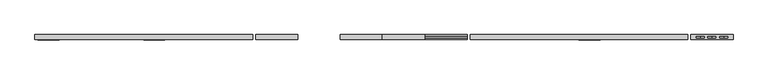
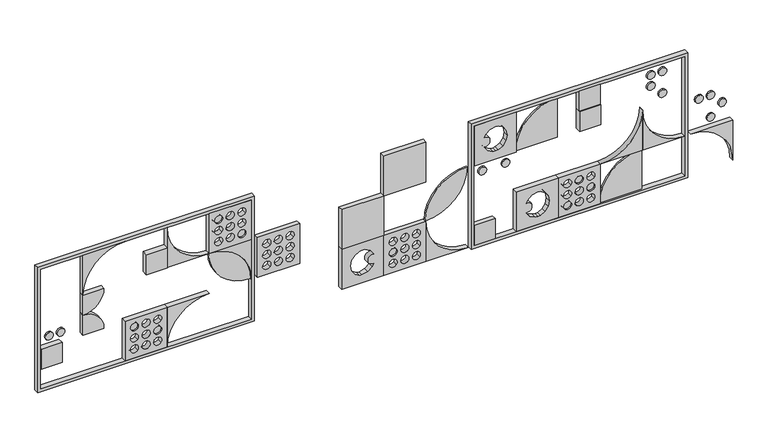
"""IFC4 building model written with IfcOpenShell, lengths in millimetres: proxy geometry, Modelos genéricos - (reduzido)PAINEL VAZADO - 90CM - (reduzido)PAINEL VAZADO - 90CM."""

from ifc_helpers import new_model, si_unit, point, frame, frame_2d, origin, place, context, project, spatial, polyline, circle_curve, trimmed, segment, composite_curve, outline, extrude, source, transform, mapped, element, save
from ifc_brep_helpers import plane_surface, revolved_surface, advanced_brep


def generic_models_19a9d5c8(model_context):
    return source(origin(), model_context, "Body", "SolidModel", [
        extrude(outline(composite_curve([segment(polyline([(30.0, 6030.0), (450.0, 6030.0)]), True, "CONTINUOUS"), segment(trimmed(circle_curve(frame_2d((30.0, 6030.0)), 420.0), [point((450.0, 6030.0))], [point((30.0, 5610.0))], False, "CARTESIAN"), True, "CONTINUOUS"), segment(polyline([(30.0, 5610.0), (30.0, 6030.0)]), True, "CONTINUOUS")], self_intersect=False)), frame((0.0, -35.0, 0.0), z_axis=(0.0, 1.0, 0.0), x_axis=(0.0, 0.0, 1.0)), (0.0, 0.0, 1.0), 15.0),
        extrude(outline(composite_curve([segment(trimmed(circle_curve(frame_2d((870.0, 3870.0)), 420.0), [point((450.0, 3870.0))], [point((870.0, 4290.0))], False, "CARTESIAN"), True, "CONTINUOUS"), segment(trimmed(circle_curve(frame_2d((450.0, 4290.0)), 420.0), [point((870.0, 4290.0))], [point((450.0, 3870.0))], False, "CARTESIAN"), True, "CONTINUOUS")], self_intersect=False)), frame((0.0, -35.0, 0.0), z_axis=(0.0, 1.0, 0.0), x_axis=(0.0, 0.0, 1.0)), (0.0, 0.0, 1.0), 15.0),
        extrude(outline(composite_curve([segment(trimmed(circle_curve(frame_2d((1195.9383616, 1804.0616384)), 40.0), [point((1235.9383616, 1804.0616384))], [point((1155.9383616, 1804.0616384))], False, "CARTESIAN"), True, "CONTINUOUS"), segment(trimmed(circle_curve(frame_2d((1195.9383616, 1804.0616384)), 40.0), [point((1155.9383616, 1804.0616384))], [point((1235.9383616, 1804.0616384))], False, "CARTESIAN"), True, "CONTINUOUS")], self_intersect=False)), frame((0.0, -35.0, 0.0), z_axis=(0.0, 1.0, 0.0), x_axis=(0.0, 0.0, 1.0)), (0.0, 0.0, 1.0), 15.0),
        advanced_brep(
        [(870.0, -50.0, 1290.0), (450.0, -50.0, 870.0), (450.0, 0.0, 870.0), (870.0, 0.0, 1290.0), (450.0, -50.0, 1290.0), (450.0, 0.0, 1290.0)],
        [
            (0, 1, circle_curve(frame((870.0, -50.0, 870.0), z_axis=(0.0, -1.0, 0.0), x_axis=(0.0, 0.0, -1.0)), 420.0)),
            (1, 2),
            (2, 3, circle_curve(frame((870.0, 0.0, 870.0), z_axis=(0.0, 1.0, 0.0), x_axis=(0.0, 0.0, -1.0)), 420.0)),
            (3, 0),
            (4, 0),
            (3, 5),
            (5, 4),
            (1, 4),
            (5, 2),
        ],
        [
            revolved_surface(polyline([(870.0, 0.0, 450.0), (870.0, -50.0, 450.0)]), (870.0, -50.0, 870.0), (0.0, 1.0, 0.0)),
            plane_surface(frame((450.0, -50.0, 1290.0), z_axis=(0.0, 0.0, 1.0), x_axis=(1.0, 0.0, 0.0))),
            plane_surface(frame((450.0, -50.0, 870.0), z_axis=(-1.0, 0.0, 0.0), x_axis=(0.0, 0.0, 1.0))),
            plane_surface(frame((590.0, 0.0, 1150.0), z_axis=(0.0, 1.0, 0.0), x_axis=(0.0, 0.0, 1.0))),
            plane_surface(frame((590.0, -50.0, 1150.0), z_axis=(0.0, -1.0, 0.0), x_axis=(0.0, 0.0, 1.0))),
        ],
        [
            (0, [[1, 2, 3, 4]]),
            (1, [[5, -4, 6, 7]]),
            (2, [[8, -7, 9, -2]]),
            (3, [[-9, -6, -3]]),
            (4, [[-8, -1, -5]]),
        ],
    ),
        advanced_brep(
        [(6510.0, -50.0, 450.0), (6930.0, -50.0, 450.0), (6930.0, 0.0, 450.0), (6510.0, 0.0, 450.0), (6930.0, -50.0, 30.0), (6930.0, 0.0, 30.0)],
        [
            (0, 1),
            (1, 2),
            (2, 3),
            (3, 0),
            (4, 0, circle_curve(frame((6510.0, -50.0, 30.0), z_axis=(0.0, -1.0, 0.0), x_axis=(0.0, 0.0, -1.0)), 420.0)),
            (3, 5, circle_curve(frame((6510.0, 0.0, 30.0), z_axis=(0.0, 1.0, 0.0), x_axis=(0.0, 0.0, -1.0)), 420.0)),
            (5, 4),
            (1, 4),
            (5, 2),
        ],
        [
            plane_surface(frame((6510.0, -50.0, 450.0), z_axis=(0.0, 0.0, 1.0), x_axis=(1.0, 0.0, 0.0))),
            revolved_surface(polyline([(6510.0, 0.0, -390.0), (6510.0, -50.0, -390.0)]), (6510.0, -50.0, 30.0), (0.0, 1.0, 0.0)),
            plane_surface(frame((6930.0, -50.0, 450.0), z_axis=(1.0, 0.0, 0.0), x_axis=(0.0, 0.0, -1.0))),
            plane_surface(frame((6790.0, -50.0, 310.0), z_axis=(0.0, -1.0, 0.0), x_axis=(0.0, 0.0, -1.0))),
            plane_surface(frame((6790.0, 0.0, 310.0), z_axis=(0.0, 1.0, 0.0), x_axis=(0.0, 0.0, -1.0))),
        ],
        [
            (0, [[1, 2, 3, 4]]),
            (1, [[5, -4, 6, 7]]),
            (2, [[8, -7, 9, -2]]),
            (3, [[-8, -1, -5]]),
            (4, [[-9, -6, -3]]),
        ],
    ),
        extrude(outline(composite_curve([segment(trimmed(circle_curve(frame_2d((544.953472, 240.0)), 40.0), [point((584.953472, 240.0))], [point((504.953472, 240.0))], False, "CARTESIAN"), True, "CONTINUOUS"), segment(trimmed(circle_curve(frame_2d((544.953472, 240.0)), 40.0), [point((504.953472, 240.0))], [point((584.953472, 240.0))], False, "CARTESIAN"), True, "CONTINUOUS")], self_intersect=False)), frame((0.0, -35.0, 0.0), z_axis=(0.0, 1.0, 0.0), x_axis=(0.0, 0.0, 1.0)), (0.0, 0.0, 1.0), 15.0),
        extrude(outline(polyline([(870.0, 4770.0), (1290.0, 4770.0), (1290.0, 4350.0), (870.0, 4350.0), (870.0, 4770.0)]), holes=[composite_curve([segment(polyline([(1197.751931, 4510.1618033), (1211.3797598, 4567.3986814), (1208.1516151, 4592.1601848), (1183.2895761, 4636.7788723), (1138.4897299, 4667.655962), (1082.6252354, 4678.6758678), (1026.7607408, 4667.655962), (981.9608946, 4636.7788723), (957.0988556, 4592.1601848), (953.8707109, 4567.3986814), (957.3468229, 4537.8957399), (984.0396777, 4485.1759976), (1031.7379869, 4449.9753005)]), True, "CONTINUOUS"), segment(trimmed(circle_curve(frame_2d((1082.8329614, 4460.4172169)), 52.151031), [point((1031.7379869, 4449.9753005))], [point((1133.9674777, 4450.1706919))], False, "CARTESIAN"), True, "CONTINUOUS"), segment(polyline([(1133.9674777, 4450.1706919), (1159.7532787, 4465.0412277), (1197.751931, 4510.1618033)]), True, "CONTINUOUS")], self_intersect=False)]), frame((0.0, -50.0, 0.0), z_axis=(0.0, 1.0, 0.0), x_axis=(0.0, 0.0, 1.0)), (0.0, 0.0, 1.0), 50.0),
        extrude(outline(polyline([(3450.0, -50.0), (3450.0, 0.0), (3870.0, 0.0), (3870.0, -50.0), (3450.0, -50.0)])), frame((0.0, 0.0, 870.0), z_axis=(0.0, 0.0, 1.0), x_axis=(1.0, 0.0, 0.0)), (0.0, 0.0, 1.0), 420.0),
        extrude(outline(composite_curve([segment(polyline([(450.0, 6030.0), (870.0, 6030.0)]), True, "CONTINUOUS"), segment(trimmed(circle_curve(frame_2d((870.0, 5610.0)), 420.0), [point((870.0, 6030.0))], [point((450.0, 5610.0))], True, "CARTESIAN"), True, "CONTINUOUS"), segment(polyline([(450.0, 5610.0), (450.0, 6030.0)]), True, "CONTINUOUS")], self_intersect=False)), frame((0.0, -50.0, 0.0), z_axis=(0.0, 1.0, 0.0), x_axis=(0.0, 0.0, 1.0)), (0.0, 0.0, 1.0), 50.0),
        extrude(outline(composite_curve([segment(trimmed(circle_curve(frame_2d((660.0, 6835.9383616)), 40.0), [point((700.0, 6835.9383616))], [point((620.0, 6835.9383616))], False, "CARTESIAN"), True, "CONTINUOUS"), segment(trimmed(circle_curve(frame_2d((660.0, 6835.9383616)), 40.0), [point((620.0, 6835.9383616))], [point((700.0, 6835.9383616))], False, "CARTESIAN"), True, "CONTINUOUS")], self_intersect=False)), frame((0.0, -35.0, 0.0), z_axis=(0.0, 1.0, 0.0), x_axis=(0.0, 0.0, 1.0)), (0.0, 0.0, 1.0), 15.0),
        extrude(outline(composite_curve([segment(polyline([(870.0, 6030.0), (450.0, 6030.0), (450.0, 6450.0)]), True, "CONTINUOUS"), segment(trimmed(circle_curve(frame_2d((870.0, 6450.0)), 420.0), [point((450.0, 6450.0))], [point((870.0, 6030.0))], True, "CARTESIAN"), True, "CONTINUOUS")], self_intersect=False)), frame((0.0, -50.0, 0.0), z_axis=(0.0, 1.0, 0.0), x_axis=(0.0, 0.0, 1.0)), (0.0, 0.0, 1.0), 50.0),
        extrude(outline(polyline([(30.0, 5190.0), (450.0, 5190.0), (450.0, 4770.0), (30.0, 4770.0), (30.0, 5190.0)]), holes=[composite_curve([segment(polyline([(357.751931, 4930.1618033), (371.3797598, 4987.3986814), (368.1516151, 5012.1601848), (343.2895761, 5056.7788723), (298.4897299, 5087.655962), (242.6252354, 5098.6758678), (186.7607408, 5087.655962), (141.9608946, 5056.7788723), (117.0988556, 5012.1601848), (113.8707109, 4987.3986814), (117.3468229, 4957.8957399), (144.0396777, 4905.1759976), (191.7379869, 4869.9753005)]), True, "CONTINUOUS"), segment(trimmed(circle_curve(frame_2d((242.8329614, 4880.4172169)), 52.151031), [point((191.7379869, 4869.9753005))], [point((293.9674777, 4870.1706919))], False, "CARTESIAN"), True, "CONTINUOUS"), segment(polyline([(293.9674777, 4870.1706919), (319.7532787, 4885.0412277), (357.751931, 4930.1618033)]), True, "CONTINUOUS")], self_intersect=False)]), frame((0.0, -50.0, 0.0), z_axis=(0.0, 1.0, 0.0), x_axis=(0.0, 0.0, 1.0)), (0.0, 0.0, 1.0), 50.0),
        extrude(outline(composite_curve([segment(trimmed(circle_curve(frame_2d((355.9383616, 964.0616384)), 40.0), [point((395.9383616, 964.0616384))], [point((315.9383616, 964.0616384))], False, "CARTESIAN"), True, "CONTINUOUS"), segment(trimmed(circle_curve(frame_2d((355.9383616, 964.0616384)), 40.0), [point((315.9383616, 964.0616384))], [point((395.9383616, 964.0616384))], False, "CARTESIAN"), True, "CONTINUOUS")], self_intersect=False)), frame((0.0, -35.0, 0.0), z_axis=(0.0, 1.0, 0.0), x_axis=(0.0, 0.0, 1.0)), (0.0, 0.0, 1.0), 15.0),
        extrude(outline(composite_curve([segment(trimmed(circle_curve(frame_2d((964.953472, 6240.0)), 40.0), [point((1004.953472, 6240.0))], [point((924.953472, 6240.0))], False, "CARTESIAN"), True, "CONTINUOUS"), segment(trimmed(circle_curve(frame_2d((964.953472, 6240.0)), 40.0), [point((924.953472, 6240.0))], [point((1004.953472, 6240.0))], False, "CARTESIAN"), True, "CONTINUOUS")], self_intersect=False)), frame((0.0, -35.0, 0.0), z_axis=(0.0, 1.0, 0.0), x_axis=(0.0, 0.0, 1.0)), (0.0, 0.0, 1.0), 15.0),
        extrude(outline(polyline([(870.0, 2130.0), (1290.0, 2130.0), (1290.0, 1710.0), (870.0, 1710.0), (870.0, 2130.0)]), holes=[composite_curve([segment(trimmed(circle_curve(frame_2d((1080.0, 1804.0616384)), 40.0), [point((1103.5114101, 1771.7009587))], [point((1056.4885899, 1836.4223182))], True, "CARTESIAN"), True, "CONTINUOUS"), segment(trimmed(circle_curve(frame_2d((1080.0, 1804.0616384)), 40.0), [point((1056.4885899, 1836.4223182))], [point((1103.5114101, 1771.7009587))], True, "CARTESIAN"), True, "CONTINUOUS")], self_intersect=False), composite_curve([segment(trimmed(circle_curve(frame_2d((964.953472, 2035.9383616)), 40.0), [point((941.4420619, 2068.2990413))], [point((988.4648821, 2003.5776818))], True, "CARTESIAN"), True, "CONTINUOUS"), segment(trimmed(circle_curve(frame_2d((964.953472, 2035.9383616)), 40.0), [point((988.4648821, 2003.5776818))], [point((941.4420619, 2068.2990413))], True, "CARTESIAN"), True, "CONTINUOUS")], self_intersect=False), composite_curve([segment(trimmed(circle_curve(frame_2d((1195.9383616, 2035.9383616)), 40.0), [point((1172.4269515, 2068.2990413))], [point((1219.4497717, 2003.5776818))], True, "CARTESIAN"), True, "CONTINUOUS"), segment(trimmed(circle_curve(frame_2d((1195.9383616, 2035.9383616)), 40.0), [point((1219.4497717, 2003.5776818))], [point((1172.4269515, 2068.2990413))], True, "CARTESIAN"), True, "CONTINUOUS")], self_intersect=False), composite_curve([segment(trimmed(circle_curve(frame_2d((1080.0, 1920.0)), 40.0), [point((1047.6393202, 1896.4885899))], [point((1112.3606798, 1943.5114101))], True, "CARTESIAN"), True, "CONTINUOUS"), segment(trimmed(circle_curve(frame_2d((1080.0, 1920.0)), 40.0), [point((1112.3606798, 1943.5114101))], [point((1047.6393202, 1896.4885899))], True, "CARTESIAN"), True, "CONTINUOUS")], self_intersect=False), composite_curve([segment(trimmed(circle_curve(frame_2d((964.953472, 1920.0)), 40.0), [point((932.5927922, 1896.4885899))], [point((997.3141518, 1943.5114101))], True, "CARTESIAN"), True, "CONTINUOUS"), segment(trimmed(circle_curve(frame_2d((964.953472, 1920.0)), 40.0), [point((997.3141518, 1943.5114101))], [point((932.5927922, 1896.4885899))], True, "CARTESIAN"), True, "CONTINUOUS")], self_intersect=False), composite_curve([segment(trimmed(circle_curve(frame_2d((1195.9383616, 1920.0)), 40.0), [point((1163.5776818, 1896.4885899))], [point((1228.2990413, 1943.5114101))], True, "CARTESIAN"), True, "CONTINUOUS"), segment(trimmed(circle_curve(frame_2d((1195.9383616, 1920.0)), 40.0), [point((1228.2990413, 1943.5114101))], [point((1163.5776818, 1896.4885899))], True, "CARTESIAN"), True, "CONTINUOUS")], self_intersect=False), composite_curve([segment(trimmed(circle_curve(frame_2d((1080.0, 2035.9383616)), 40.0), [point((1056.4885899, 2068.2990413))], [point((1103.5114101, 2003.5776818))], True, "CARTESIAN"), True, "CONTINUOUS"), segment(trimmed(circle_curve(frame_2d((1080.0, 2035.9383616)), 40.0), [point((1103.5114101, 2003.5776818))], [point((1056.4885899, 2068.2990413))], True, "CARTESIAN"), True, "CONTINUOUS")], self_intersect=False), composite_curve([segment(trimmed(circle_curve(frame_2d((1195.9383616, 1804.0616384)), 40.0), [point((1219.4497717, 1771.7009587))], [point((1172.4269515, 1836.4223182))], True, "CARTESIAN"), True, "CONTINUOUS"), segment(trimmed(circle_curve(frame_2d((1195.9383616, 1804.0616384)), 40.0), [point((1172.4269515, 1836.4223182))], [point((1219.4497717, 1771.7009587))], True, "CARTESIAN"), True, "CONTINUOUS")], self_intersect=False), composite_curve([segment(trimmed(circle_curve(frame_2d((964.953472, 1804.0616384)), 40.0), [point((988.4648821, 1771.7009587))], [point((941.4420619, 1836.4223182))], True, "CARTESIAN"), True, "CONTINUOUS"), segment(trimmed(circle_curve(frame_2d((964.953472, 1804.0616384)), 40.0), [point((941.4420619, 1836.4223182))], [point((988.4648821, 1771.7009587))], True, "CARTESIAN"), True, "CONTINUOUS")], self_intersect=False)]), frame((0.0, -50.0, 0.0), z_axis=(0.0, 1.0, 0.0), x_axis=(0.0, 0.0, 1.0)), (0.0, 0.0, 1.0), 50.0),
        extrude(outline(composite_curve([segment(trimmed(circle_curve(frame_2d((870.0, 2130.0)), 420.0), [point((870.0, 1710.0))], [point((450.0, 2130.0))], False, "CARTESIAN"), True, "CONTINUOUS"), segment(trimmed(circle_curve(frame_2d((450.0, 1710.0)), 420.0), [point((450.0, 2130.0))], [point((870.0, 1710.0))], False, "CARTESIAN"), True, "CONTINUOUS")], self_intersect=False)), frame((0.0, -35.0, 0.0), z_axis=(0.0, 1.0, 0.0), x_axis=(0.0, 0.0, 1.0)), (0.0, 0.0, 1.0), 15.0),
        advanced_brep(
        [(2130.0, -50.0, 450.0), (1710.0, -50.0, 870.0), (1710.0, 0.0, 870.0), (2130.0, 0.0, 450.0), (2130.0, -50.0, 870.0), (2130.0, 0.0, 870.0)],
        [
            (0, 1, circle_curve(frame((1710.0, -50.0, 450.0), z_axis=(0.0, -1.0, 0.0), x_axis=(-1.0, 0.0, 0.0)), 420.0)),
            (1, 2),
            (2, 3, circle_curve(frame((1710.0, 0.0, 450.0), z_axis=(0.0, 1.0, 0.0), x_axis=(-1.0, 0.0, 0.0)), 420.0)),
            (3, 0),
            (4, 0),
            (3, 5),
            (5, 4),
            (1, 4),
            (5, 2),
        ],
        [
            revolved_surface(polyline([(1290.0, 0.0, 450.0), (1290.0, -50.0, 450.0)]), (1710.0, -50.0, 450.0), (0.0, 1.0, 0.0)),
            plane_surface(frame((2130.0, -50.0, 870.0), z_axis=(1.0, 0.0, 0.0), x_axis=(0.0, 0.0, -1.0))),
            plane_surface(frame((1710.0, -50.0, 870.0), z_axis=(0.0, 0.0, 1.0), x_axis=(1.0, 0.0, 0.0))),
            plane_surface(frame((1990.0, 0.0, 730.0), z_axis=(0.0, 1.0, 0.0), x_axis=(1.0, 0.0, 0.0))),
            plane_surface(frame((1990.0, -50.0, 730.0), z_axis=(0.0, -1.0, 0.0), x_axis=(1.0, 0.0, 0.0))),
        ],
        [
            (0, [[1, 2, 3, 4]]),
            (1, [[5, -4, 6, 7]]),
            (2, [[8, -7, 9, -2]]),
            (3, [[-9, -6, -3]]),
            (4, [[-8, -1, -5]]),
        ],
    ),
        extrude(outline(composite_curve([segment(trimmed(circle_curve(frame_2d((124.953472, 5284.0616384)), 40.0), [point((164.953472, 5284.0616384))], [point((84.953472, 5284.0616384))], False, "CARTESIAN"), True, "CONTINUOUS"), segment(trimmed(circle_curve(frame_2d((124.953472, 5284.0616384)), 40.0), [point((84.953472, 5284.0616384))], [point((164.953472, 5284.0616384))], False, "CARTESIAN"), True, "CONTINUOUS")], self_intersect=False)), frame((0.0, -35.0, 0.0), z_axis=(0.0, 1.0, 0.0), x_axis=(0.0, 0.0, 1.0)), (0.0, 0.0, 1.0), 15.0),
        extrude(outline(composite_curve([segment(trimmed(circle_curve(frame_2d((240.0, 3544.0616384)), 40.0), [point((280.0, 3544.0616384))], [point((200.0, 3544.0616384))], False, "CARTESIAN"), True, "CONTINUOUS"), segment(trimmed(circle_curve(frame_2d((240.0, 3544.0616384)), 40.0), [point((200.0, 3544.0616384))], [point((280.0, 3544.0616384))], False, "CARTESIAN"), True, "CONTINUOUS")], self_intersect=False)), frame((0.0, -35.0, 0.0), z_axis=(0.0, 1.0, 0.0), x_axis=(0.0, 0.0, 1.0)), (0.0, 0.0, 1.0), 15.0),
        extrude(outline(composite_curve([segment(trimmed(circle_curve(frame_2d((775.9383616, 4444.0616384)), 40.0), [point((815.9383616, 4444.0616384))], [point((735.9383616, 4444.0616384))], False, "CARTESIAN"), True, "CONTINUOUS"), segment(trimmed(circle_curve(frame_2d((775.9383616, 4444.0616384)), 40.0), [point((735.9383616, 4444.0616384))], [point((815.9383616, 4444.0616384))], False, "CARTESIAN"), True, "CONTINUOUS")], self_intersect=False)), frame((0.0, -35.0, 0.0), z_axis=(0.0, 1.0, 0.0), x_axis=(0.0, 0.0, 1.0)), (0.0, 0.0, 1.0), 15.0),
        extrude(outline(composite_curve([segment(trimmed(circle_curve(frame_2d((240.0, 1195.9383616)), 40.0), [point((280.0, 1195.9383616))], [point((200.0, 1195.9383616))], False, "CARTESIAN"), True, "CONTINUOUS"), segment(trimmed(circle_curve(frame_2d((240.0, 1195.9383616)), 40.0), [point((200.0, 1195.9383616))], [point((280.0, 1195.9383616))], False, "CARTESIAN"), True, "CONTINUOUS")], self_intersect=False)), frame((0.0, -35.0, 0.0), z_axis=(0.0, 1.0, 0.0), x_axis=(0.0, 0.0, 1.0)), (0.0, 0.0, 1.0), 15.0),
        extrude(outline(composite_curve([segment(trimmed(circle_curve(frame_2d((355.9383616, 5400.0)), 40.0), [point((395.9383616, 5400.0))], [point((315.9383616, 5400.0))], False, "CARTESIAN"), True, "CONTINUOUS"), segment(trimmed(circle_curve(frame_2d((355.9383616, 5400.0)), 40.0), [point((315.9383616, 5400.0))], [point((395.9383616, 5400.0))], False, "CARTESIAN"), True, "CONTINUOUS")], self_intersect=False)), frame((0.0, -35.0, 0.0), z_axis=(0.0, 1.0, 0.0), x_axis=(0.0, 0.0, 1.0)), (0.0, 0.0, 1.0), 15.0),
        extrude(outline(composite_curve([segment(trimmed(circle_curve(frame_2d((1080.0, 6124.0616384)), 40.0), [point((1120.0, 6124.0616384))], [point((1040.0, 6124.0616384))], False, "CARTESIAN"), True, "CONTINUOUS"), segment(trimmed(circle_curve(frame_2d((1080.0, 6124.0616384)), 40.0), [point((1040.0, 6124.0616384))], [point((1120.0, 6124.0616384))], False, "CARTESIAN"), True, "CONTINUOUS")], self_intersect=False)), frame((0.0, -35.0, 0.0), z_axis=(0.0, 1.0, 0.0), x_axis=(0.0, 0.0, 1.0)), (0.0, 0.0, 1.0), 15.0),
        extrude(outline(composite_curve([segment(polyline([(870.0, 5190.0), (1290.0, 5190.0)]), True, "CONTINUOUS"), segment(trimmed(circle_curve(frame_2d((870.0, 5190.0)), 420.0), [point((1290.0, 5190.0))], [point((870.0, 4770.0))], False, "CARTESIAN"), True, "CONTINUOUS"), segment(polyline([(870.0, 4770.0), (870.0, 5190.0)]), True, "CONTINUOUS")], self_intersect=False)), frame((0.0, -35.0, 0.0), z_axis=(0.0, 1.0, 0.0), x_axis=(0.0, 0.0, 1.0)), (0.0, 0.0, 1.0), 15.0),
        extrude(outline(polyline([(30.0, -55.0), (30.0, 0.0), (240.0, 0.0), (240.0, -55.0), (30.0, -55.0)])), frame((0.0, 0.0, 240.0), z_axis=(0.0, 0.0, 1.0), x_axis=(1.0, 0.0, 0.0)), (0.0, 0.0, 1.0), 210.0),
        extrude(outline(polyline([(30.0, 3870.0), (450.0, 3870.0), (450.0, 3450.0), (30.0, 3450.0), (30.0, 3870.0)]), holes=[composite_curve([segment(trimmed(circle_curve(frame_2d((240.0, 3544.0616384)), 40.0), [point((263.5114101, 3511.7009587))], [point((216.4885899, 3576.4223182))], True, "CARTESIAN"), True, "CONTINUOUS"), segment(trimmed(circle_curve(frame_2d((240.0, 3544.0616384)), 40.0), [point((216.4885899, 3576.4223182))], [point((263.5114101, 3511.7009587))], True, "CARTESIAN"), True, "CONTINUOUS")], self_intersect=False), composite_curve([segment(trimmed(circle_curve(frame_2d((124.953472, 3775.9383616)), 40.0), [point((101.4420619, 3808.2990413))], [point((148.4648821, 3743.5776818))], True, "CARTESIAN"), True, "CONTINUOUS"), segment(trimmed(circle_curve(frame_2d((124.953472, 3775.9383616)), 40.0), [point((148.4648821, 3743.5776818))], [point((101.4420619, 3808.2990413))], True, "CARTESIAN"), True, "CONTINUOUS")], self_intersect=False), composite_curve([segment(trimmed(circle_curve(frame_2d((355.9383616, 3775.9383616)), 40.0), [point((332.4269515, 3808.2990413))], [point((379.4497717, 3743.5776818))], True, "CARTESIAN"), True, "CONTINUOUS"), segment(trimmed(circle_curve(frame_2d((355.9383616, 3775.9383616)), 40.0), [point((379.4497717, 3743.5776818))], [point((332.4269515, 3808.2990413))], True, "CARTESIAN"), True, "CONTINUOUS")], self_intersect=False), composite_curve([segment(trimmed(circle_curve(frame_2d((240.0, 3660.0)), 40.0), [point((207.6393202, 3636.4885899))], [point((272.3606798, 3683.5114101))], True, "CARTESIAN"), True, "CONTINUOUS"), segment(trimmed(circle_curve(frame_2d((240.0, 3660.0)), 40.0), [point((272.3606798, 3683.5114101))], [point((207.6393202, 3636.4885899))], True, "CARTESIAN"), True, "CONTINUOUS")], self_intersect=False), composite_curve([segment(trimmed(circle_curve(frame_2d((124.953472, 3660.0)), 40.0), [point((92.5927922, 3636.4885899))], [point((157.3141518, 3683.5114101))], True, "CARTESIAN"), True, "CONTINUOUS"), segment(trimmed(circle_curve(frame_2d((124.953472, 3660.0)), 40.0), [point((157.3141518, 3683.5114101))], [point((92.5927922, 3636.4885899))], True, "CARTESIAN"), True, "CONTINUOUS")], self_intersect=False), composite_curve([segment(trimmed(circle_curve(frame_2d((355.9383616, 3660.0)), 40.0), [point((323.5776818, 3636.4885899))], [point((388.2990413, 3683.5114101))], True, "CARTESIAN"), True, "CONTINUOUS"), segment(trimmed(circle_curve(frame_2d((355.9383616, 3660.0)), 40.0), [point((388.2990413, 3683.5114101))], [point((323.5776818, 3636.4885899))], True, "CARTESIAN"), True, "CONTINUOUS")], self_intersect=False), composite_curve([segment(trimmed(circle_curve(frame_2d((240.0, 3775.9383616)), 40.0), [point((216.4885899, 3808.2990413))], [point((263.5114101, 3743.5776818))], True, "CARTESIAN"), True, "CONTINUOUS"), segment(trimmed(circle_curve(frame_2d((240.0, 3775.9383616)), 40.0), [point((263.5114101, 3743.5776818))], [point((216.4885899, 3808.2990413))], True, "CARTESIAN"), True, "CONTINUOUS")], self_intersect=False), composite_curve([segment(trimmed(circle_curve(frame_2d((355.9383616, 3544.0616384)), 40.0), [point((379.4497717, 3511.7009587))], [point((332.4269515, 3576.4223182))], True, "CARTESIAN"), True, "CONTINUOUS"), segment(trimmed(circle_curve(frame_2d((355.9383616, 3544.0616384)), 40.0), [point((332.4269515, 3576.4223182))], [point((379.4497717, 3511.7009587))], True, "CARTESIAN"), True, "CONTINUOUS")], self_intersect=False), composite_curve([segment(trimmed(circle_curve(frame_2d((124.953472, 3544.0616384)), 40.0), [point((148.4648821, 3511.7009587))], [point((101.4420619, 3576.4223182))], True, "CARTESIAN"), True, "CONTINUOUS"), segment(trimmed(circle_curve(frame_2d((124.953472, 3544.0616384)), 40.0), [point((101.4420619, 3576.4223182))], [point((148.4648821, 3511.7009587))], True, "CARTESIAN"), True, "CONTINUOUS")], self_intersect=False)]), frame((0.0, -50.0, 0.0), z_axis=(0.0, 1.0, 0.0), x_axis=(0.0, 0.0, 1.0)), (0.0, 0.0, 1.0), 50.0),
        extrude(outline(polyline([(4350.0, -50.0), (4350.0, 0.0), (4560.0, 0.0), (4560.0, -50.0), (4350.0, -50.0)])), frame((0.0, 0.0, 30.0), z_axis=(0.0, 0.0, 1.0), x_axis=(1.0, 0.0, 0.0)), (0.0, 0.0, 1.0), 210.0),
        extrude(outline(polyline([(450.0, 3450.0), (450.0, 3030.0), (30.0, 3030.0), (30.0, 3450.0), (450.0, 3450.0)]), holes=[composite_curve([segment(polyline([(368.1516151, 3207.8398152), (371.3797598, 3232.6013186), (367.9264934, 3262.0084735), (341.4018473, 3314.5976713), (293.9674777, 3349.8293081)]), True, "CONTINUOUS"), segment(trimmed(circle_curve(frame_2d((242.8329614, 3339.5827831)), 52.151031), [point((293.9674777, 3349.8293081))], [point((191.7379869, 3350.0246995))], False, "CARTESIAN"), True, "CONTINUOUS"), segment(polyline([(191.7379869, 3350.0246995), (165.8151142, 3335.1941501), (127.5874629, 3290.014162), (113.8707109, 3232.6013186), (117.0988556, 3207.8398152), (141.9608946, 3163.2211277), (186.7607408, 3132.344038), (242.6252354, 3121.3241322), (298.4897299, 3132.344038), (343.2895761, 3163.2211277), (368.1516151, 3207.8398152)]), True, "CONTINUOUS")], self_intersect=False)]), frame((0.0, -50.0, 0.0), z_axis=(0.0, 1.0, 0.0), x_axis=(0.0, 0.0, 1.0)), (0.0, 0.0, 1.0), 50.0),
        extrude(outline(composite_curve([segment(polyline([(450.0, 450.0), (450.0, 660.0)]), True, "CONTINUOUS"), segment(trimmed(circle_curve(frame_2d((450.0, 450.0)), 210.0), [point((450.0, 660.0))], [point((660.0, 450.0))], False, "CARTESIAN"), True, "CONTINUOUS"), segment(polyline([(660.0, 450.0), (450.0, 450.0)]), True, "CONTINUOUS")], self_intersect=False)), frame((0.0, -50.0, 0.0), z_axis=(0.0, 1.0, 0.0), x_axis=(0.0, 0.0, 1.0)), (0.0, 0.0, 1.0), 50.0),
        extrude(outline(composite_curve([segment(trimmed(circle_curve(frame_2d((1195.9383616, 6240.0)), 40.0), [point((1235.9383616, 6240.0))], [point((1155.9383616, 6240.0))], False, "CARTESIAN"), True, "CONTINUOUS"), segment(trimmed(circle_curve(frame_2d((1195.9383616, 6240.0)), 40.0), [point((1155.9383616, 6240.0))], [point((1235.9383616, 6240.0))], False, "CARTESIAN"), True, "CONTINUOUS")], self_intersect=False)), frame((0.0, -35.0, 0.0), z_axis=(0.0, 1.0, 0.0), x_axis=(0.0, 0.0, 1.0)), (0.0, 0.0, 1.0), 15.0),
        extrude(outline(composite_curve([segment(trimmed(circle_curve(frame_2d((964.953472, 2035.9383616)), 40.0), [point((1004.953472, 2035.9383616))], [point((924.953472, 2035.9383616))], False, "CARTESIAN"), True, "CONTINUOUS"), segment(trimmed(circle_curve(frame_2d((964.953472, 2035.9383616)), 40.0), [point((924.953472, 2035.9383616))], [point((1004.953472, 2035.9383616))], False, "CARTESIAN"), True, "CONTINUOUS")], self_intersect=False)), frame((0.0, -35.0, 0.0), z_axis=(0.0, 1.0, 0.0), x_axis=(0.0, 0.0, 1.0)), (0.0, 0.0, 1.0), 15.0),
        extrude(outline(polyline([(30.0, 1290.0), (450.0, 1290.0), (450.0, 870.0), (30.0, 870.0), (30.0, 1290.0)]), holes=[composite_curve([segment(trimmed(circle_curve(frame_2d((240.0, 964.0616384)), 40.0), [point((263.5114101, 931.7009587))], [point((216.4885899, 996.4223182))], True, "CARTESIAN"), True, "CONTINUOUS"), segment(trimmed(circle_curve(frame_2d((240.0, 964.0616384)), 40.0), [point((216.4885899, 996.4223182))], [point((263.5114101, 931.7009587))], True, "CARTESIAN"), True, "CONTINUOUS")], self_intersect=False), composite_curve([segment(trimmed(circle_curve(frame_2d((124.953472, 1195.9383616)), 40.0), [point((101.4420619, 1228.2990413))], [point((148.4648821, 1163.5776818))], True, "CARTESIAN"), True, "CONTINUOUS"), segment(trimmed(circle_curve(frame_2d((124.953472, 1195.9383616)), 40.0), [point((148.4648821, 1163.5776818))], [point((101.4420619, 1228.2990413))], True, "CARTESIAN"), True, "CONTINUOUS")], self_intersect=False), composite_curve([segment(trimmed(circle_curve(frame_2d((355.9383616, 1195.9383616)), 40.0), [point((332.4269515, 1228.2990413))], [point((379.4497717, 1163.5776818))], True, "CARTESIAN"), True, "CONTINUOUS"), segment(trimmed(circle_curve(frame_2d((355.9383616, 1195.9383616)), 40.0), [point((379.4497717, 1163.5776818))], [point((332.4269515, 1228.2990413))], True, "CARTESIAN"), True, "CONTINUOUS")], self_intersect=False), composite_curve([segment(trimmed(circle_curve(frame_2d((240.0, 1080.0)), 40.0), [point((207.6393202, 1056.4885899))], [point((272.3606798, 1103.5114101))], True, "CARTESIAN"), True, "CONTINUOUS"), segment(trimmed(circle_curve(frame_2d((240.0, 1080.0)), 40.0), [point((272.3606798, 1103.5114101))], [point((207.6393202, 1056.4885899))], True, "CARTESIAN"), True, "CONTINUOUS")], self_intersect=False), composite_curve([segment(trimmed(circle_curve(frame_2d((124.953472, 1080.0)), 40.0), [point((92.5927922, 1056.4885899))], [point((157.3141518, 1103.5114101))], True, "CARTESIAN"), True, "CONTINUOUS"), segment(trimmed(circle_curve(frame_2d((124.953472, 1080.0)), 40.0), [point((157.3141518, 1103.5114101))], [point((92.5927922, 1056.4885899))], True, "CARTESIAN"), True, "CONTINUOUS")], self_intersect=False), composite_curve([segment(trimmed(circle_curve(frame_2d((355.9383616, 1080.0)), 40.0), [point((323.5776818, 1056.4885899))], [point((388.2990413, 1103.5114101))], True, "CARTESIAN"), True, "CONTINUOUS"), segment(trimmed(circle_curve(frame_2d((355.9383616, 1080.0)), 40.0), [point((388.2990413, 1103.5114101))], [point((323.5776818, 1056.4885899))], True, "CARTESIAN"), True, "CONTINUOUS")], self_intersect=False), composite_curve([segment(trimmed(circle_curve(frame_2d((240.0, 1195.9383616)), 40.0), [point((216.4885899, 1228.2990413))], [point((263.5114101, 1163.5776818))], True, "CARTESIAN"), True, "CONTINUOUS"), segment(trimmed(circle_curve(frame_2d((240.0, 1195.9383616)), 40.0), [point((263.5114101, 1163.5776818))], [point((216.4885899, 1228.2990413))], True, "CARTESIAN"), True, "CONTINUOUS")], self_intersect=False), composite_curve([segment(trimmed(circle_curve(frame_2d((355.9383616, 964.0616384)), 40.0), [point((379.4497717, 931.7009587))], [point((332.4269515, 996.4223182))], True, "CARTESIAN"), True, "CONTINUOUS"), segment(trimmed(circle_curve(frame_2d((355.9383616, 964.0616384)), 40.0), [point((332.4269515, 996.4223182))], [point((379.4497717, 931.7009587))], True, "CARTESIAN"), True, "CONTINUOUS")], self_intersect=False), composite_curve([segment(trimmed(circle_curve(frame_2d((124.953472, 964.0616384)), 40.0), [point((148.4648821, 931.7009587))], [point((101.4420619, 996.4223182))], True, "CARTESIAN"), True, "CONTINUOUS"), segment(trimmed(circle_curve(frame_2d((124.953472, 964.0616384)), 40.0), [point((101.4420619, 996.4223182))], [point((148.4648821, 931.7009587))], True, "CARTESIAN"), True, "CONTINUOUS")], self_intersect=False)]), frame((0.0, -50.0, 0.0), z_axis=(0.0, 1.0, 0.0), x_axis=(0.0, 0.0, 1.0)), (0.0, 0.0, 1.0), 50.0),
        extrude(outline(composite_curve([segment(polyline([(870.0, 1290.0), (870.0, 1710.0)]), True, "CONTINUOUS"), segment(trimmed(circle_curve(frame_2d((1290.0, 1710.0)), 420.0), [point((870.0, 1710.0))], [point((1290.0, 1290.0))], True, "CARTESIAN"), True, "CONTINUOUS"), segment(polyline([(1290.0, 1290.0), (870.0, 1290.0)]), True, "CONTINUOUS")], self_intersect=False)), frame((0.0, -50.0, 0.0), z_axis=(0.0, 1.0, 0.0), x_axis=(0.0, 0.0, 1.0)), (0.0, 0.0, 1.0), 50.0),
        extrude(outline(composite_curve([segment(trimmed(circle_curve(frame_2d((775.9383616, 6604.0616384)), 40.0), [point((815.9383616, 6604.0616384))], [point((735.9383616, 6604.0616384))], False, "CARTESIAN"), True, "CONTINUOUS"), segment(trimmed(circle_curve(frame_2d((775.9383616, 6604.0616384)), 40.0), [point((735.9383616, 6604.0616384))], [point((815.9383616, 6604.0616384))], False, "CARTESIAN"), True, "CONTINUOUS")], self_intersect=False)), frame((0.0, -35.0, 0.0), z_axis=(0.0, 1.0, 0.0), x_axis=(0.0, 0.0, 1.0)), (0.0, 0.0, 1.0), 15.0),
        extrude(outline(composite_curve([segment(trimmed(circle_curve(frame_2d((870.0, 450.0)), 210.0), [point((660.0, 450.0))], [point((870.0, 660.0))], False, "CARTESIAN"), True, "CONTINUOUS"), segment(polyline([(870.0, 660.0), (870.0, 450.0), (660.0, 450.0)]), True, "CONTINUOUS")], self_intersect=False)), frame((0.0, -50.0, 0.0), z_axis=(0.0, 1.0, 0.0), x_axis=(0.0, 0.0, 1.0)), (0.0, 0.0, 1.0), 50.0),
        extrude(outline(composite_curve([segment(trimmed(circle_curve(frame_2d((544.953472, 6720.0)), 40.0), [point((584.953472, 6720.0))], [point((504.953472, 6720.0))], False, "CARTESIAN"), True, "CONTINUOUS"), segment(trimmed(circle_curve(frame_2d((544.953472, 6720.0)), 40.0), [point((504.953472, 6720.0))], [point((584.953472, 6720.0))], False, "CARTESIAN"), True, "CONTINUOUS")], self_intersect=False)), frame((0.0, -35.0, 0.0), z_axis=(0.0, 1.0, 0.0), x_axis=(0.0, 0.0, 1.0)), (0.0, 0.0, 1.0), 15.0),
        extrude(outline(composite_curve([segment(polyline([(450.0, 1290.0), (30.0, 1290.0)]), True, "CONTINUOUS"), segment(trimmed(circle_curve(frame_2d((30.0, 1710.0)), 420.0), [point((30.0, 1290.0))], [point((450.0, 1710.0))], True, "CARTESIAN"), True, "CONTINUOUS"), segment(polyline([(450.0, 1710.0), (450.0, 1290.0)]), True, "CONTINUOUS")], self_intersect=False)), frame((0.0, -50.0, 0.0), z_axis=(0.0, 1.0, 0.0), x_axis=(0.0, 0.0, 1.0)), (0.0, 0.0, 1.0), 50.0),
        extrude(outline(polyline([(450.0, 2610.0), (870.0, 2610.0), (870.0, 2190.0), (450.0, 2190.0), (450.0, 2610.0)]), holes=[composite_curve([segment(trimmed(circle_curve(frame_2d((660.0, 2284.0616384)), 40.0), [point((683.5114101, 2251.7009587))], [point((636.4885899, 2316.4223182))], True, "CARTESIAN"), True, "CONTINUOUS"), segment(trimmed(circle_curve(frame_2d((660.0, 2284.0616384)), 40.0), [point((636.4885899, 2316.4223182))], [point((683.5114101, 2251.7009587))], True, "CARTESIAN"), True, "CONTINUOUS")], self_intersect=False), composite_curve([segment(trimmed(circle_curve(frame_2d((544.953472, 2515.9383616)), 40.0), [point((521.4420619, 2548.2990413))], [point((568.4648821, 2483.5776818))], True, "CARTESIAN"), True, "CONTINUOUS"), segment(trimmed(circle_curve(frame_2d((544.953472, 2515.9383616)), 40.0), [point((568.4648821, 2483.5776818))], [point((521.4420619, 2548.2990413))], True, "CARTESIAN"), True, "CONTINUOUS")], self_intersect=False), composite_curve([segment(trimmed(circle_curve(frame_2d((775.9383616, 2515.9383616)), 40.0), [point((752.4269515, 2548.2990413))], [point((799.4497717, 2483.5776818))], True, "CARTESIAN"), True, "CONTINUOUS"), segment(trimmed(circle_curve(frame_2d((775.9383616, 2515.9383616)), 40.0), [point((799.4497717, 2483.5776818))], [point((752.4269515, 2548.2990413))], True, "CARTESIAN"), True, "CONTINUOUS")], self_intersect=False), composite_curve([segment(trimmed(circle_curve(frame_2d((660.0, 2400.0)), 40.0), [point((627.6393202, 2376.4885899))], [point((692.3606798, 2423.5114101))], True, "CARTESIAN"), True, "CONTINUOUS"), segment(trimmed(circle_curve(frame_2d((660.0, 2400.0)), 40.0), [point((692.3606798, 2423.5114101))], [point((627.6393202, 2376.4885899))], True, "CARTESIAN"), True, "CONTINUOUS")], self_intersect=False), composite_curve([segment(trimmed(circle_curve(frame_2d((544.953472, 2400.0)), 40.0), [point((512.5927922, 2376.4885899))], [point((577.3141518, 2423.5114101))], True, "CARTESIAN"), True, "CONTINUOUS"), segment(trimmed(circle_curve(frame_2d((544.953472, 2400.0)), 40.0), [point((577.3141518, 2423.5114101))], [point((512.5927922, 2376.4885899))], True, "CARTESIAN"), True, "CONTINUOUS")], self_intersect=False), composite_curve([segment(trimmed(circle_curve(frame_2d((775.9383616, 2400.0)), 40.0), [point((743.5776818, 2376.4885899))], [point((808.2990413, 2423.5114101))], True, "CARTESIAN"), True, "CONTINUOUS"), segment(trimmed(circle_curve(frame_2d((775.9383616, 2400.0)), 40.0), [point((808.2990413, 2423.5114101))], [point((743.5776818, 2376.4885899))], True, "CARTESIAN"), True, "CONTINUOUS")], self_intersect=False), composite_curve([segment(trimmed(circle_curve(frame_2d((660.0, 2515.9383616)), 40.0), [point((636.4885899, 2548.2990413))], [point((683.5114101, 2483.5776818))], True, "CARTESIAN"), True, "CONTINUOUS"), segment(trimmed(circle_curve(frame_2d((660.0, 2515.9383616)), 40.0), [point((683.5114101, 2483.5776818))], [point((636.4885899, 2548.2990413))], True, "CARTESIAN"), True, "CONTINUOUS")], self_intersect=False), composite_curve([segment(trimmed(circle_curve(frame_2d((775.9383616, 2284.0616384)), 40.0), [point((799.4497717, 2251.7009587))], [point((752.4269515, 2316.4223182))], True, "CARTESIAN"), True, "CONTINUOUS"), segment(trimmed(circle_curve(frame_2d((775.9383616, 2284.0616384)), 40.0), [point((752.4269515, 2316.4223182))], [point((799.4497717, 2251.7009587))], True, "CARTESIAN"), True, "CONTINUOUS")], self_intersect=False), composite_curve([segment(trimmed(circle_curve(frame_2d((544.953472, 2284.0616384)), 40.0), [point((568.4648821, 2251.7009587))], [point((521.4420619, 2316.4223182))], True, "CARTESIAN"), True, "CONTINUOUS"), segment(trimmed(circle_curve(frame_2d((544.953472, 2284.0616384)), 40.0), [point((521.4420619, 2316.4223182))], [point((568.4648821, 2251.7009587))], True, "CARTESIAN"), True, "CONTINUOUS")], self_intersect=False)]), frame((0.0, -50.0, 0.0), z_axis=(0.0, 1.0, 0.0), x_axis=(0.0, 0.0, 1.0)), (0.0, 0.0, 1.0), 50.0),
        extrude(outline(composite_curve([segment(trimmed(circle_curve(frame_2d((775.9383616, 4675.9383616)), 40.0), [point((815.9383616, 4675.9383616))], [point((735.9383616, 4675.9383616))], False, "CARTESIAN"), True, "CONTINUOUS"), segment(trimmed(circle_curve(frame_2d((775.9383616, 4675.9383616)), 40.0), [point((735.9383616, 4675.9383616))], [point((815.9383616, 4675.9383616))], False, "CARTESIAN"), True, "CONTINUOUS")], self_intersect=False)), frame((0.0, -35.0, 0.0), z_axis=(0.0, 1.0, 0.0), x_axis=(0.0, 0.0, 1.0)), (0.0, 0.0, 1.0), 15.0),
        extrude(outline(polyline([(5400.0, -50.0), (5400.0, 0.0), (5610.0, 0.0), (5610.0, -50.0), (5400.0, -50.0)])), frame((0.0, 0.0, 1080.0), z_axis=(0.0, 0.0, 1.0), x_axis=(1.0, 0.0, 0.0)), (0.0, 0.0, 1.0), 210.0),
        extrude(outline(composite_curve([segment(trimmed(circle_curve(frame_2d((775.9383616, 6720.0)), 40.0), [point((815.9383616, 6720.0))], [point((735.9383616, 6720.0))], False, "CARTESIAN"), True, "CONTINUOUS"), segment(trimmed(circle_curve(frame_2d((775.9383616, 6720.0)), 40.0), [point((735.9383616, 6720.0))], [point((815.9383616, 6720.0))], False, "CARTESIAN"), True, "CONTINUOUS")], self_intersect=False)), frame((0.0, -35.0, 0.0), z_axis=(0.0, 1.0, 0.0), x_axis=(0.0, 0.0, 1.0)), (0.0, 0.0, 1.0), 15.0),
        extrude(outline(composite_curve([segment(trimmed(circle_curve(frame_2d((544.953472, 124.0616384)), 40.0), [point((584.953472, 124.0616384))], [point((504.953472, 124.0616384))], False, "CARTESIAN"), True, "CONTINUOUS"), segment(trimmed(circle_curve(frame_2d((544.953472, 124.0616384)), 40.0), [point((504.953472, 124.0616384))], [point((584.953472, 124.0616384))], False, "CARTESIAN"), True, "CONTINUOUS")], self_intersect=False)), frame((0.0, -35.0, 0.0), z_axis=(0.0, 1.0, 0.0), x_axis=(0.0, 0.0, 1.0)), (0.0, 0.0, 1.0), 15.0),
        extrude(outline(polyline([(1320.0, 2160.0), (1320.0, 0.0), (0.0, 0.0), (0.0, 2160.0), (1320.0, 2160.0)]), holes=[polyline([(1290.0, 2130.0), (30.0, 2130.0), (30.0, 30.0), (1290.0, 30.0), (1290.0, 2130.0)])]), frame((0.0, -50.0, 0.0), z_axis=(0.0, 1.0, 0.0), x_axis=(0.0, 0.0, 1.0)), (0.0, 0.0, 1.0), 50.0),
        extrude(outline(polyline([(3030.0, -50.0), (3030.0, 0.0), (3450.0, 0.0), (3450.0, -50.0), (3030.0, -50.0)])), frame((0.0, 0.0, 450.0), z_axis=(0.0, 0.0, 1.0), x_axis=(1.0, 0.0, 0.0)), (0.0, 0.0, 1.0), 420.0),
        extrude(outline(polyline([(5400.0, -55.0), (5400.0, 0.0), (5610.0, 0.0), (5610.0, -55.0), (5400.0, -55.0)])), frame((0.0, 0.0, 870.0), z_axis=(0.0, 0.0, 1.0), x_axis=(1.0, 0.0, 0.0)), (0.0, 0.0, 1.0), 210.0),
        extrude(outline(polyline([(30.0, 5610.0), (450.0, 5610.0), (450.0, 5190.0), (30.0, 5190.0), (30.0, 5610.0)]), holes=[composite_curve([segment(trimmed(circle_curve(frame_2d((240.0, 5284.0616384)), 40.0), [point((263.5114101, 5251.7009587))], [point((216.4885899, 5316.4223182))], True, "CARTESIAN"), True, "CONTINUOUS"), segment(trimmed(circle_curve(frame_2d((240.0, 5284.0616384)), 40.0), [point((216.4885899, 5316.4223182))], [point((263.5114101, 5251.7009587))], True, "CARTESIAN"), True, "CONTINUOUS")], self_intersect=False), composite_curve([segment(trimmed(circle_curve(frame_2d((124.953472, 5515.9383616)), 40.0), [point((101.4420619, 5548.2990413))], [point((148.4648821, 5483.5776818))], True, "CARTESIAN"), True, "CONTINUOUS"), segment(trimmed(circle_curve(frame_2d((124.953472, 5515.9383616)), 40.0), [point((148.4648821, 5483.5776818))], [point((101.4420619, 5548.2990413))], True, "CARTESIAN"), True, "CONTINUOUS")], self_intersect=False), composite_curve([segment(trimmed(circle_curve(frame_2d((355.9383616, 5515.9383616)), 40.0), [point((332.4269515, 5548.2990413))], [point((379.4497717, 5483.5776818))], True, "CARTESIAN"), True, "CONTINUOUS"), segment(trimmed(circle_curve(frame_2d((355.9383616, 5515.9383616)), 40.0), [point((379.4497717, 5483.5776818))], [point((332.4269515, 5548.2990413))], True, "CARTESIAN"), True, "CONTINUOUS")], self_intersect=False), composite_curve([segment(trimmed(circle_curve(frame_2d((240.0, 5400.0)), 40.0), [point((207.6393202, 5376.4885899))], [point((272.3606798, 5423.5114101))], True, "CARTESIAN"), True, "CONTINUOUS"), segment(trimmed(circle_curve(frame_2d((240.0, 5400.0)), 40.0), [point((272.3606798, 5423.5114101))], [point((207.6393202, 5376.4885899))], True, "CARTESIAN"), True, "CONTINUOUS")], self_intersect=False), composite_curve([segment(trimmed(circle_curve(frame_2d((124.953472, 5400.0)), 40.0), [point((92.5927922, 5376.4885899))], [point((157.3141518, 5423.5114101))], True, "CARTESIAN"), True, "CONTINUOUS"), segment(trimmed(circle_curve(frame_2d((124.953472, 5400.0)), 40.0), [point((157.3141518, 5423.5114101))], [point((92.5927922, 5376.4885899))], True, "CARTESIAN"), True, "CONTINUOUS")], self_intersect=False), composite_curve([segment(trimmed(circle_curve(frame_2d((355.9383616, 5400.0)), 40.0), [point((323.5776818, 5376.4885899))], [point((388.2990413, 5423.5114101))], True, "CARTESIAN"), True, "CONTINUOUS"), segment(trimmed(circle_curve(frame_2d((355.9383616, 5400.0)), 40.0), [point((388.2990413, 5423.5114101))], [point((323.5776818, 5376.4885899))], True, "CARTESIAN"), True, "CONTINUOUS")], self_intersect=False), composite_curve([segment(trimmed(circle_curve(frame_2d((240.0, 5515.9383616)), 40.0), [point((216.4885899, 5548.2990413))], [point((263.5114101, 5483.5776818))], True, "CARTESIAN"), True, "CONTINUOUS"), segment(trimmed(circle_curve(frame_2d((240.0, 5515.9383616)), 40.0), [point((263.5114101, 5483.5776818))], [point((216.4885899, 5548.2990413))], True, "CARTESIAN"), True, "CONTINUOUS")], self_intersect=False), composite_curve([segment(trimmed(circle_curve(frame_2d((355.9383616, 5284.0616384)), 40.0), [point((379.4497717, 5251.7009587))], [point((332.4269515, 5316.4223182))], True, "CARTESIAN"), True, "CONTINUOUS"), segment(trimmed(circle_curve(frame_2d((355.9383616, 5284.0616384)), 40.0), [point((332.4269515, 5316.4223182))], [point((379.4497717, 5251.7009587))], True, "CARTESIAN"), True, "CONTINUOUS")], self_intersect=False), composite_curve([segment(trimmed(circle_curve(frame_2d((124.953472, 5284.0616384)), 40.0), [point((148.4648821, 5251.7009587))], [point((101.4420619, 5316.4223182))], True, "CARTESIAN"), True, "CONTINUOUS"), segment(trimmed(circle_curve(frame_2d((124.953472, 5284.0616384)), 40.0), [point((101.4420619, 5316.4223182))], [point((148.4648821, 5251.7009587))], True, "CARTESIAN"), True, "CONTINUOUS")], self_intersect=False)]), frame((0.0, -50.0, 0.0), z_axis=(0.0, 1.0, 0.0), x_axis=(0.0, 0.0, 1.0)), (0.0, 0.0, 1.0), 50.0),
        extrude(outline(composite_curve([segment(trimmed(circle_curve(frame_2d((1195.9383616, 6124.0616384)), 40.0), [point((1235.9383616, 6124.0616384))], [point((1155.9383616, 6124.0616384))], False, "CARTESIAN"), True, "CONTINUOUS"), segment(trimmed(circle_curve(frame_2d((1195.9383616, 6124.0616384)), 40.0), [point((1155.9383616, 6124.0616384))], [point((1235.9383616, 6124.0616384))], False, "CARTESIAN"), True, "CONTINUOUS")], self_intersect=False)), frame((0.0, -35.0, 0.0), z_axis=(0.0, 1.0, 0.0), x_axis=(0.0, 0.0, 1.0)), (0.0, 0.0, 1.0), 15.0),
        extrude(outline(polyline([(1320.0, 6480.0), (1320.0, 4320.0), (0.0, 4320.0), (0.0, 6480.0), (1320.0, 6480.0)]), holes=[polyline([(1290.0, 6450.0), (30.0, 6450.0), (30.0, 4350.0), (1290.0, 4350.0), (1290.0, 6450.0)])]), frame((0.0, -50.0, 0.0), z_axis=(0.0, 1.0, 0.0), x_axis=(0.0, 0.0, 1.0)), (0.0, 0.0, 1.0), 50.0),
        extrude(outline(composite_curve([segment(trimmed(circle_curve(frame_2d((240.0, 5515.9383616)), 40.0), [point((280.0, 5515.9383616))], [point((200.0, 5515.9383616))], False, "CARTESIAN"), True, "CONTINUOUS"), segment(trimmed(circle_curve(frame_2d((240.0, 5515.9383616)), 40.0), [point((200.0, 5515.9383616))], [point((280.0, 5515.9383616))], False, "CARTESIAN"), True, "CONTINUOUS")], self_intersect=False)), frame((0.0, -35.0, 0.0), z_axis=(0.0, 1.0, 0.0), x_axis=(0.0, 0.0, 1.0)), (0.0, 0.0, 1.0), 15.0),
        extrude(outline(polyline([(1080.0, -55.0), (1080.0, 0.0), (1290.0, 0.0), (1290.0, -55.0), (1080.0, -55.0)])), frame((0.0, 0.0, 870.0), z_axis=(0.0, 0.0, 1.0), x_axis=(1.0, 0.0, 0.0)), (0.0, 0.0, 1.0), 210.0),
        extrude(outline(composite_curve([segment(polyline([(450.0, 3870.0), (30.0, 3870.0), (30.0, 4290.0)]), True, "CONTINUOUS"), segment(trimmed(circle_curve(frame_2d((450.0, 4290.0)), 420.0), [point((30.0, 4290.0))], [point((450.0, 3870.0))], True, "CARTESIAN"), True, "CONTINUOUS")], self_intersect=False)), frame((0.0, -50.0, 0.0), z_axis=(0.0, 1.0, 0.0), x_axis=(0.0, 0.0, 1.0)), (0.0, 0.0, 1.0), 50.0),
    ])


if __name__ == "__main__":
    model = new_model("IFC4")
    model_context = context("Model", 3, world=origin())
    ifc_project = project(units=[si_unit("LENGTHUNIT", "METRE", prefix="MILLI")], contexts=[model_context])
    site = spatial("IfcSite", under=ifc_project)
    building = spatial("IfcBuilding", under=site)
    placement = place(None, origin())
    generic_models_shape = generic_models_19a9d5c8(model_context)
    element("IfcBuildingElementProxy", 1, Name="Modelos genéricos - (reduzido)PAINEL VAZADO - 90CM - (reduzido)PAINEL VAZADO - 90CM", ObjectType="Modelos genéricos - (reduzido)PAINEL VAZADO - 90CM - (reduzido)PAINEL VAZADO - 90CM", at=placement, inside=building, context=model_context, shape_type="MappedRepresentation", body=[
        mapped(generic_models_shape, transform((0.0, 0.0, 0.0), x_axis=(1.0, 0.0, 0.0), y_axis=(0.0, 1.0, 0.0), z_axis=(0.0, 0.0, 1.0))),
    ])
    save(model, "model.ifc")
